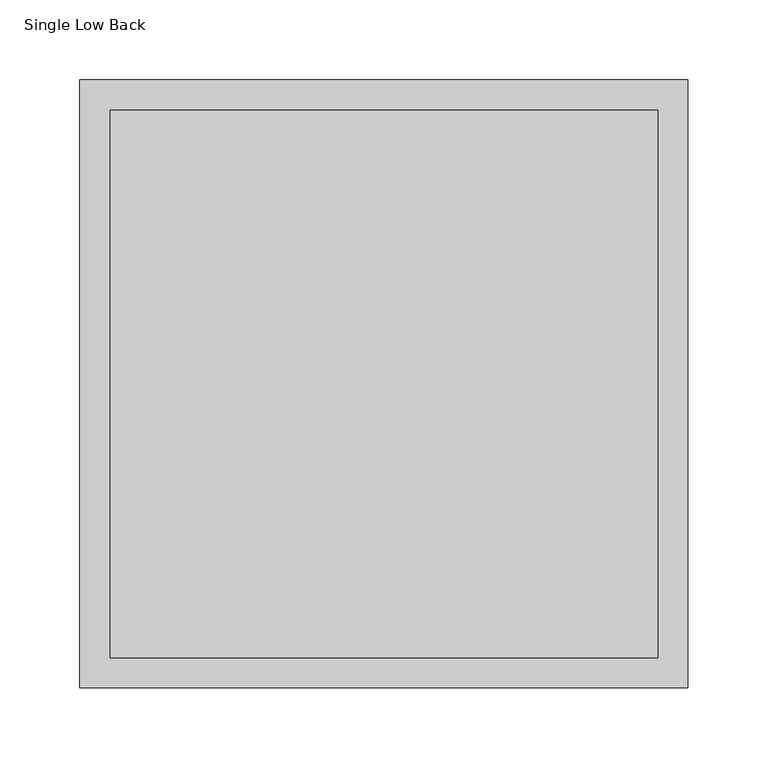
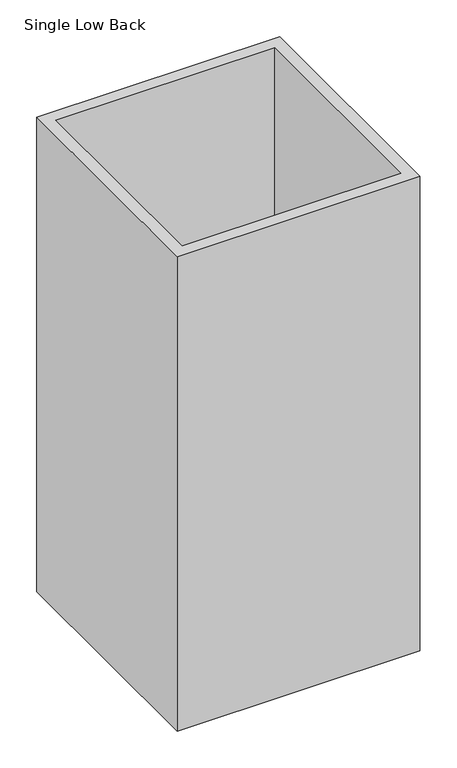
"""IFC4 building model written with IfcOpenShell, lengths in millimetres: furniture geometry, Profim - Lunea - Planter : Single Low Back."""

from ifc_helpers import new_model, si_unit, origin, place, context, project, spatial, faceted_brep, source, transform, mapped, element, save


def single_low_back_34c9f7b2(model_context):
    return source(origin(), model_context, "Body", "Brep", [
        faceted_brep([(190.5, 190.5, 787.4), (-190.5, 190.5, 787.4), (-190.5, -190.5, 787.4), (190.5, -190.5, 787.4), (171.45, -171.45, 787.4), (-171.45, -171.45, 787.4), (-171.45, 171.45, 787.4), (171.45, 171.45, 787.4), (190.5, 190.5, 0.0), (190.5, -190.5, 0.0), (-190.5, -190.5, 0.0), (-190.5, 190.5, 0.0), (171.45, -171.45, 508.0), (171.45, 171.45, 508.0), (-171.45, 171.45, 508.0), (-171.45, -171.45, 508.0)], [[[0, 1, 2, 3], [4, 5, 6, 7]], [[8, 9, 10, 11]], [[1, 0, 8, 11]], [[2, 1, 11, 10]], [[3, 2, 10, 9]], [[0, 3, 9, 8]], [[12, 13, 14, 15]], [[12, 15, 5, 4]], [[13, 12, 4, 7]], [[14, 13, 7, 6]], [[15, 14, 6, 5]]]),
    ])


if __name__ == "__main__":
    model = new_model("IFC4")
    model_context = context("Model", 3, world=origin())
    ifc_project = project(units=[si_unit("LENGTHUNIT", "METRE", prefix="MILLI")], contexts=[model_context])
    site = spatial("IfcSite", under=ifc_project)
    building = spatial("IfcBuilding", under=site)
    placement = place(None, origin())
    single_low_back_shape = single_low_back_34c9f7b2(model_context)
    element("IfcFurniture", 1, ObjectType="Profim - Lunea - Planter : Single Low Back", at=placement, inside=building, context=model_context, shape_type="MappedRepresentation", body=[
        mapped(single_low_back_shape, transform((0.0, 0.0, 0.0), x_axis=(1.0, 0.0, 0.0), y_axis=(0.0, 1.0, 0.0), z_axis=(0.0, 0.0, 1.0))),
    ])
    save(model, "model.ifc")
